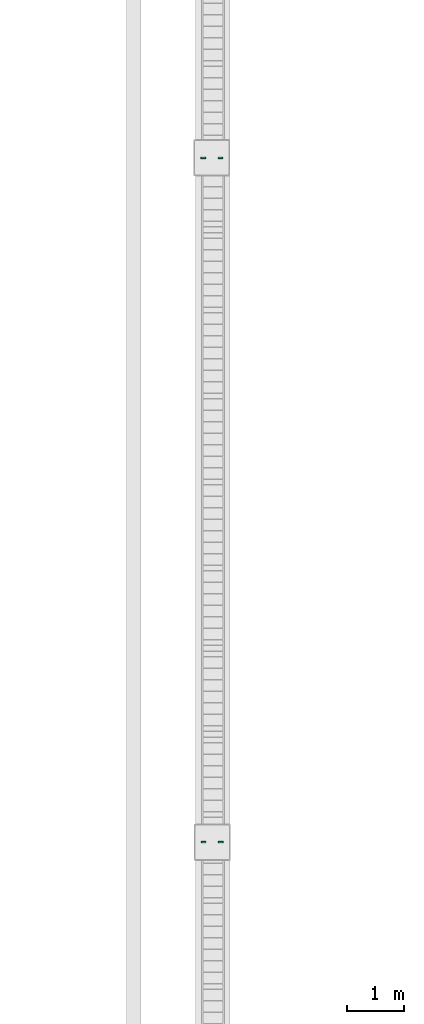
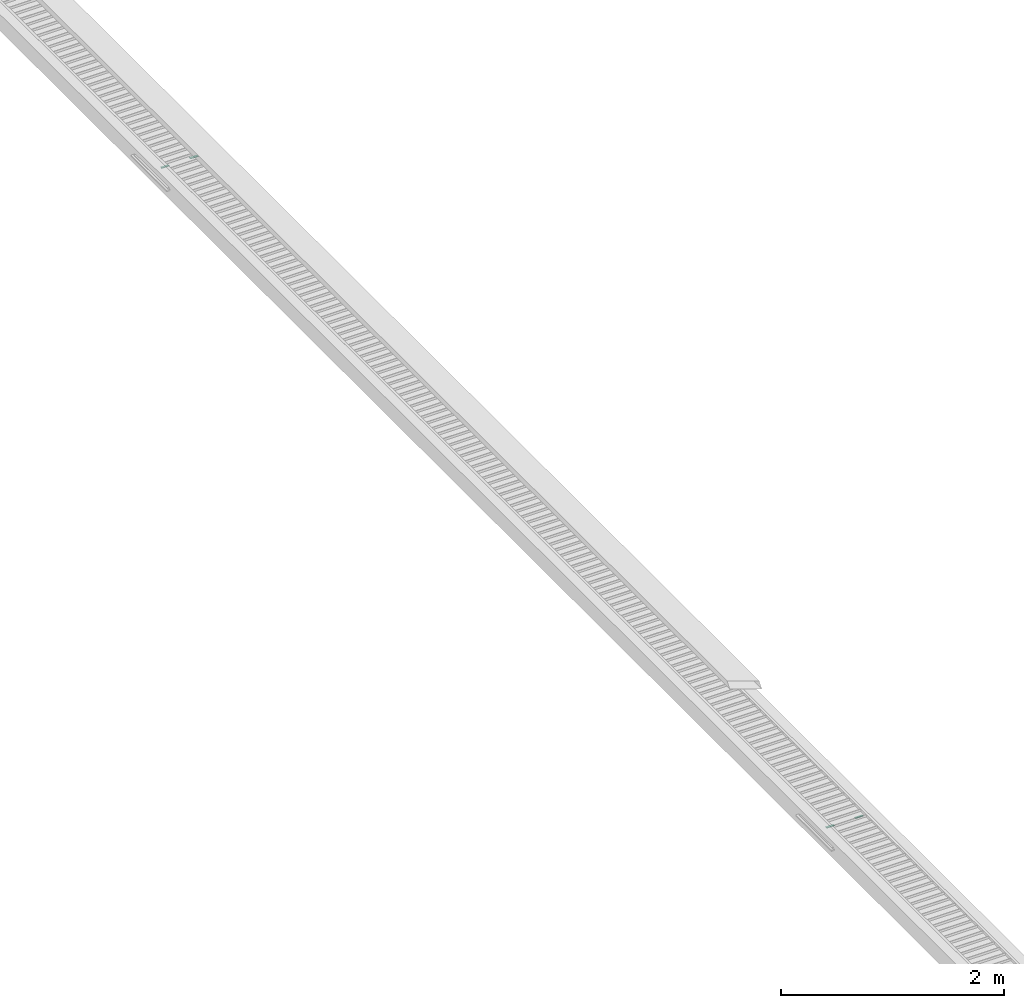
# One storey, part 70 of 90: 4 distribution chamber elements.
"""IFC2X3 building model written with IfcOpenShell, lengths in metres."""

from ifc_helpers import new_model, si_unit, origin, origin_with_axes, place, context, subcontext, project, spatial, faceted_brep, element, save


model = new_model("IFC2X3")

# Units and contexts
model_context = context("Model", 3, precision=1e-05, world=origin_with_axes())
body_context = subcontext(model_context, "Body", "Model", "MODEL_VIEW")
ifc_project = project(units=[si_unit("LENGTHUNIT", "METRE"), si_unit("AREAUNIT", "SQUARE_METRE"), si_unit("VOLUMEUNIT", "CUBIC_METRE"), si_unit("PLANEANGLEUNIT", "RADIAN")], contexts=[model_context])

# Site, building, storey
site_placement = place(None, origin_with_axes())
site = spatial("IfcSite", under=ifc_project, at=site_placement, Name="Predio Los Mangos - Morales, San Martín", CompositionType="ELEMENT")
building_placement = place(site_placement, origin())
building = spatial("IfcBuilding", under=site, at=building_placement, Name="Hogar de Refugio Temporal", CompositionType="ELEMENT")
storey_placement = place(building_placement, origin())
storey = spatial("IfcBuildingStorey", under=building, at=storey_placement, Name="NIVEL 1 (NPT +0.00)", CompositionType="ELEMENT", Elevation=0.0)

# Distribution chamber elements
distribution_chamber_element_1_placement = place(storey_placement, origin())
element("IfcDistributionChamberElement", 1, at=distribution_chamber_element_1_placement, inside=storey, Name="tapa_insp_asa", ObjectType="Tapa de inspección", context=body_context, shape_type="Brep", body=[
    faceted_brep([(2.222, 69.28, 0.104), (2.222, 69.304, 0.104), (2.302, 69.304, 0.104), (2.302, 69.28, 0.104), (2.222, 69.28, 0.108), (2.302, 69.28, 0.108), (2.302, 69.304, 0.108), (2.222, 69.304, 0.108)], [[[0, 1, 2, 3]], [[4, 5, 6, 7]], [[0, 3, 5, 4]], [[3, 2, 6, 5]], [[2, 1, 7, 6]], [[1, 0, 4, 7]]]),
])
distribution_chamber_element_2_placement = place(storey_placement, origin())
element("IfcDistributionChamberElement", 2, at=distribution_chamber_element_2_placement, inside=storey, Name="tapa_insp_asa", ObjectType="Tapa de inspección", context=body_context, shape_type="Brep", body=[
    faceted_brep([(2.522, 69.28, 0.104), (2.522, 69.304, 0.104), (2.602, 69.304, 0.104), (2.602, 69.28, 0.104), (2.522, 69.28, 0.108), (2.602, 69.28, 0.108), (2.602, 69.304, 0.108), (2.522, 69.304, 0.108)], [[[0, 1, 2, 3]], [[4, 5, 6, 7]], [[0, 3, 5, 4]], [[3, 2, 6, 5]], [[2, 1, 7, 6]], [[1, 0, 4, 7]]]),
])
distribution_chamber_element_3_placement = place(storey_placement, origin())
element("IfcDistributionChamberElement", 3, at=distribution_chamber_element_3_placement, inside=storey, Name="tapa_insp_asa", ObjectType="Tapa de inspección", context=body_context, shape_type="Brep", body=[
    faceted_brep([(2.228, 57.343, 0.104), (2.228, 57.367, 0.104), (2.308, 57.367, 0.104), (2.308, 57.343, 0.104), (2.228, 57.343, 0.108), (2.308, 57.343, 0.108), (2.308, 57.367, 0.108), (2.228, 57.367, 0.108)], [[[0, 1, 2, 3]], [[4, 5, 6, 7]], [[0, 3, 5, 4]], [[3, 2, 6, 5]], [[2, 1, 7, 6]], [[1, 0, 4, 7]]]),
])
distribution_chamber_element_4_placement = place(storey_placement, origin())
element("IfcDistributionChamberElement", 4, at=distribution_chamber_element_4_placement, inside=storey, Name="tapa_insp_asa", ObjectType="Tapa de inspección", context=body_context, shape_type="Brep", body=[
    faceted_brep([(2.528, 57.343, 0.104), (2.528, 57.367, 0.104), (2.608, 57.367, 0.104), (2.608, 57.343, 0.104), (2.528, 57.343, 0.108), (2.608, 57.343, 0.108), (2.608, 57.367, 0.108), (2.528, 57.367, 0.108)], [[[0, 1, 2, 3]], [[4, 5, 6, 7]], [[0, 3, 5, 4]], [[3, 2, 6, 5]], [[2, 1, 7, 6]], [[1, 0, 4, 7]]]),
])

save(model, "model.ifc")
